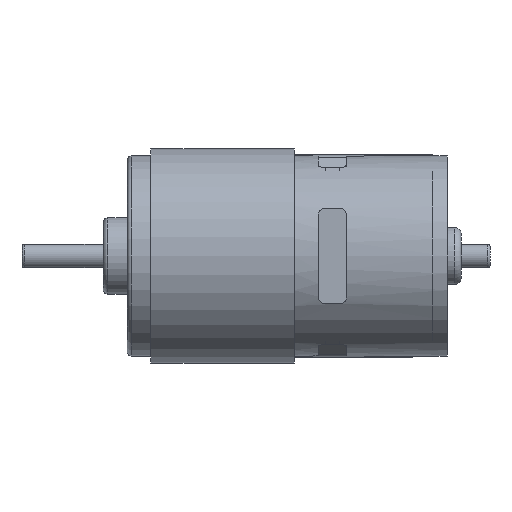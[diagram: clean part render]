
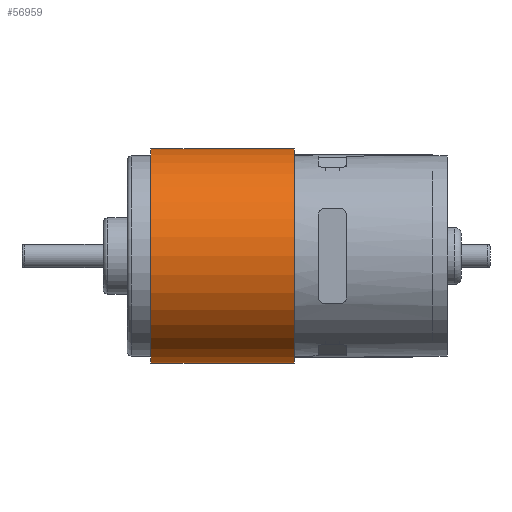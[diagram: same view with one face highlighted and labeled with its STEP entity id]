
A CAD part, left-side view. The second image highlights one B-rep face of the part: STEP entity #56959.
In plain terms, the highlighted cylindrical face has radius 22.5 mm (diameter 45 mm), a partial arc.
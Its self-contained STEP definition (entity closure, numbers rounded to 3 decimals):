
#11087=LINE('',#127956,#16697);
#11093=LINE('',#127968,#16703);
#16697=VECTOR('',#71574,10.);
#16703=VECTOR('',#71582,10.);
#17036=CYLINDRICAL_SURFACE('',#60627,22.5);
#20071=FACE_OUTER_BOUND('',#23482,.T.);
#23482=EDGE_LOOP('',(#53830,#53831,#53832,#53833));
#24168=CIRCLE('',#60622,22.5);
#24171=CIRCLE('',#60626,22.5);
#29368=VERTEX_POINT('',#127952);
#29370=VERTEX_POINT('',#127955);
#29373=VERTEX_POINT('',#127962);
#29375=VERTEX_POINT('',#127966);
#37405=EDGE_CURVE('',#29370,#29368,#11087,.T.);
#37411=EDGE_CURVE('',#29373,#29375,#11093,.T.);
#37647=EDGE_CURVE('',#29370,#29375,#24168,.T.);
#37650=EDGE_CURVE('',#29368,#29373,#24171,.T.);
#53830=ORIENTED_EDGE('',*,*,#37411,.T.);
#53831=ORIENTED_EDGE('',*,*,#37647,.F.);
#53832=ORIENTED_EDGE('',*,*,#37405,.T.);
#53833=ORIENTED_EDGE('',*,*,#37650,.T.);
#56959=ADVANCED_FACE('',(#20071),#17036,.T.);
#60622=AXIS2_PLACEMENT_3D('',#128601,#72118,#72119);
#60626=AXIS2_PLACEMENT_3D('',#128606,#72126,#72127);
#60627=AXIS2_PLACEMENT_3D('',#128607,#72128,#72129);
#71574=DIRECTION('',(0.,1.,0.));
#71582=DIRECTION('',(0.,-1.,0.));
#72118=DIRECTION('center_axis',(0.,-1.,0.));
#72119=DIRECTION('ref_axis',(-1.,0.,0.));
#72126=DIRECTION('center_axis',(0.,-1.,0.));
#72127=DIRECTION('ref_axis',(-1.,0.,0.));
#72128=DIRECTION('center_axis',(0.,-1.,0.));
#72129=DIRECTION('ref_axis',(-1.,0.,0.));
#127952=CARTESIAN_POINT('',(22.5,62.,0.));
#127955=CARTESIAN_POINT('',(22.5,32.,0.));
#127956=CARTESIAN_POINT('',(22.5,62.,0.));
#127962=CARTESIAN_POINT('',(19.486,62.,-11.25));
#127966=CARTESIAN_POINT('',(19.486,32.,-11.25));
#127968=CARTESIAN_POINT('',(19.486,62.,-11.25));
#128601=CARTESIAN_POINT('Origin',(0.,32.,0.));
#128606=CARTESIAN_POINT('Origin',(0.,62.,0.));
#128607=CARTESIAN_POINT('Origin',(0.,62.,0.));
